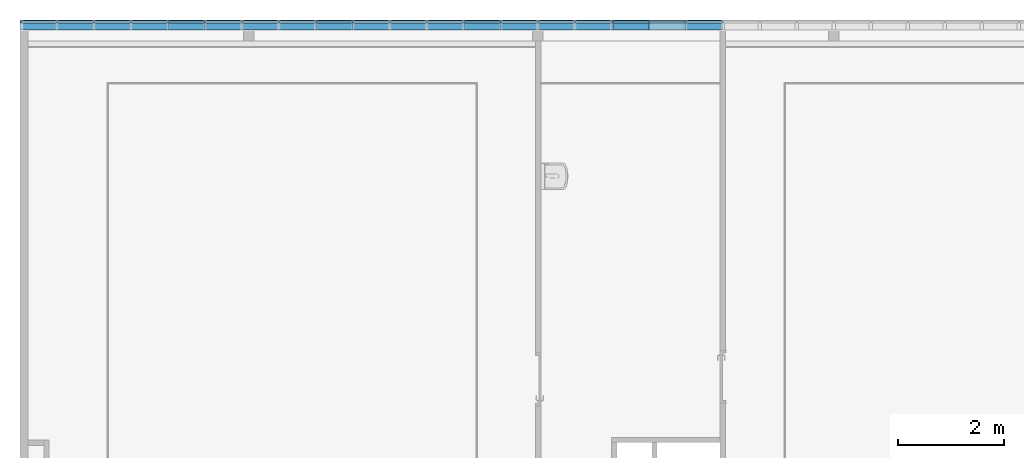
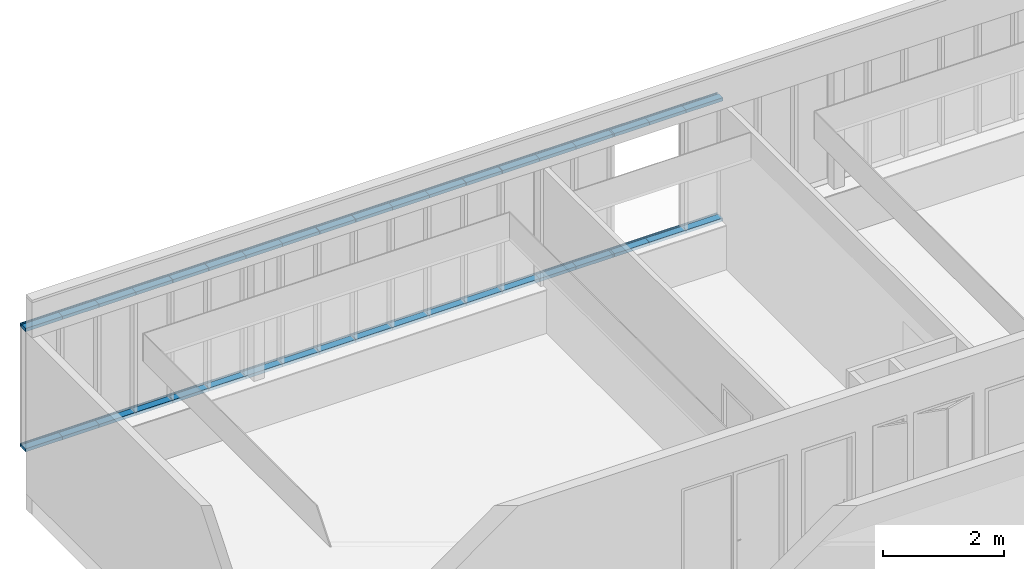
# One storey, part 10 of 87: 46 members, 1 element without a shape of its own.
"""IFC2X3 building model written with IfcOpenShell, lengths in centimetres."""

from ifc_helpers import new_model, entity, si_unit, converted_unit, derived_unit, direction, frame, origin, place, context, subcontext, project, spatial, polyline, outline, extrude, source, transform, mapped, material, type_object, type_shapes, element, aggregate, save


model = new_model("IFC2X3")

# Units and contexts
model_context = context("Model", 3, precision=0.001, world=origin(), true_north=direction((6.12303176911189e-17, 1.0)))
body_context = subcontext(model_context, "Body", "Model", "MODEL_VIEW")
ifc_project = project(units=[si_unit("LENGTHUNIT", "METRE", prefix="CENTI"), si_unit("AREAUNIT", "SQUARE_METRE"), si_unit("VOLUMEUNIT", "CUBIC_METRE"), converted_unit("PLANEANGLEUNIT", "DEGREE", entity("IfcRatioMeasure", 0.0174532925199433), si_unit("PLANEANGLEUNIT", "RADIAN"), dimensions=[0, 0, 0, 0, 0, 0, 0]), si_unit("MASSUNIT", "GRAM", prefix="KILO"), derived_unit("MASSDENSITYUNIT", [(si_unit("MASSUNIT", "GRAM", prefix="KILO"), 1), (si_unit("LENGTHUNIT", "METRE"), -3)]), si_unit("TIMEUNIT", "SECOND"), si_unit("FREQUENCYUNIT", "HERTZ"), si_unit("THERMODYNAMICTEMPERATUREUNIT", "DEGREE_CELSIUS"), derived_unit("THERMALTRANSMITTANCEUNIT", [(si_unit("MASSUNIT", "GRAM", prefix="KILO"), 1), (si_unit("THERMODYNAMICTEMPERATUREUNIT", "KELVIN"), -1), (si_unit("TIMEUNIT", "SECOND"), -3)]), derived_unit("VOLUMETRICFLOWRATEUNIT", [(si_unit("LENGTHUNIT", "METRE"), 3), (si_unit("TIMEUNIT", "SECOND"), -1)]), si_unit("ELECTRICCURRENTUNIT", "AMPERE"), si_unit("ELECTRICVOLTAGEUNIT", "VOLT"), si_unit("POWERUNIT", "WATT"), si_unit("FORCEUNIT", "NEWTON", prefix="KILO"), si_unit("ILLUMINANCEUNIT", "LUX"), si_unit("LUMINOUSFLUXUNIT", "LUMEN"), si_unit("LUMINOUSINTENSITYUNIT", "CANDELA"), derived_unit("USERDEFINED", [(si_unit("MASSUNIT", "GRAM", prefix="KILO"), -1), (si_unit("LENGTHUNIT", "METRE"), -2), (si_unit("TIMEUNIT", "SECOND"), 3), (si_unit("LUMINOUSFLUXUNIT", "LUMEN"), 1)]), derived_unit("LINEARVELOCITYUNIT", [(si_unit("LENGTHUNIT", "METRE"), 1), (si_unit("TIMEUNIT", "SECOND"), -1)]), si_unit("PRESSUREUNIT", "PASCAL"), derived_unit("USERDEFINED", [(si_unit("LENGTHUNIT", "METRE"), -2), (si_unit("MASSUNIT", "GRAM", prefix="KILO"), 1), (si_unit("TIMEUNIT", "SECOND"), -2)])], contexts=[model_context])

# Site, building, storey
site_placement = place(None, frame((-2781.94577612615, 7442.24238424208, 0.0)))
site = spatial("IfcSite", under=ifc_project, at=site_placement, Name="Default", CompositionType="ELEMENT")
building_placement = place(site_placement, origin())
building = spatial("IfcBuilding", under=site, at=building_placement, CompositionType="ELEMENT")
storey_placement = place(building_placement, frame((0.0, 0.0, 774.0)))
storey = spatial("IfcBuildingStorey", under=building, at=storey_placement, Name="TR - N02 - ARCH", CompositionType="ELEMENT", Elevation=774.0)

# Curtain wall, members
curtain_wall_type = type_object("IfcCurtainWallType", Name="Mur-rideau:07 - mur rideau trame 70cm", PredefinedType="NOTDEFINED")
curtain_wall_placement = place(storey_placement, frame((0.0, 0.0, -774.0)))
curtain_wall = element("IfcCurtainWall", 1, at=curtain_wall_placement, inside=storey, type_object=curtain_wall_type, Name="Mur-rideau:07 - mur rideau trame 70cm", ObjectType="Mur-rideau:07 - mur rideau trame 70cm")
ifc_material = material(Name="Aluminium")
member_type_1 = type_object("IfcMemberType", Name="150 x 25mm Détails", PredefinedType="MEMBER")
shared_shape_1 = source(origin(), body_context, "Body", "SweptSolid", [
    extrude(outline(polyline([(-5.6666666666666, -3.24999999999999), (-3.66666666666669, -3.24999999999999), (-3.66666666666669, -0.868749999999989), (-0.166666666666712, -0.868749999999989), (-0.166666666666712, -3.25000000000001), (13.3333333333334, -3.25000000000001), (13.3333333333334, 3.24999999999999), (-0.16666666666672, 3.24999999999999), (-0.16666666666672, 0.868749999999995), (-3.66666666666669, 0.868749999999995), (-3.66666666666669, 3.25), (-5.6666666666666, 3.25), (-5.6666666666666, -3.24999999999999)])), frame((-3.24999999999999, -1.96666666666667, -70.0), z_axis=(0.0, 0.0, 1.0), x_axis=(0.0, -1.0, 0.0)), (0.0, 0.0, 1.0), 70.0000000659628),
])
type_shapes(member_type_1, [shared_shape_1])
member_1_placement = place(storey_placement, frame((-8409.49987766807, 26.200000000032, 332.5), z_axis=(-1.0, 0.0, 0.0), x_axis=(0.0, 0.0, 1.0)))
member_1 = element("IfcMember", 2, at=member_1_placement, type_object=member_type_1, material=ifc_material, Name="Meneau rectangulaire:150 x 25mm Détails", ObjectType="Meneau rectangulaire:150 x 25mm Détails", context=body_context, shape_type="MappedRepresentation", body=[
    mapped(shared_shape_1, transform((0.0, 0.0, 0.0), scale=1.0)),
])
member_type_2 = type_object("IfcMemberType", Name="150 x 25mm Détails", PredefinedType="MEMBER")
shared_shape_2 = source(origin(), body_context, "Body", "SweptSolid", [
    extrude(outline(polyline([(-5.6666666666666, -3.24999999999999), (-3.66666666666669, -3.24999999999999), (-3.66666666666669, -0.868749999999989), (-0.166666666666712, -0.868749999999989), (-0.166666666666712, -3.25000000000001), (13.3333333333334, -3.25000000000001), (13.3333333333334, 3.24999999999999), (-0.16666666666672, 3.24999999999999), (-0.16666666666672, 0.868749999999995), (-3.66666666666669, 0.868749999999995), (-3.66666666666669, 3.25), (-5.6666666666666, 3.25), (-5.6666666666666, -3.24999999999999)])), frame((-3.24999999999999, -1.96666666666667, -70.0), z_axis=(0.0, 0.0, 1.0), x_axis=(0.0, -1.0, 0.0)), (0.0, 0.0, 1.0), 69.9999999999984),
])
type_shapes(member_type_2, [shared_shape_2])
member_2_placement = place(storey_placement, frame((-7149.49987760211, 26.2000000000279, 332.5), z_axis=(-1.0, 0.0, 0.0), x_axis=(0.0, 0.0, 1.0)))
member_2 = element("IfcMember", 3, at=member_2_placement, type_object=member_type_2, material=ifc_material, Name="Meneau rectangulaire:150 x 25mm Détails", ObjectType="Meneau rectangulaire:150 x 25mm Détails", context=body_context, shape_type="MappedRepresentation", body=[
    mapped(shared_shape_2, transform((0.0, 0.0, 0.0), scale=1.0)),
])
member_3_placement = place(storey_placement, frame((-7219.49987760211, 26.2000000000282, 332.5), z_axis=(-1.0, 0.0, 0.0), x_axis=(0.0, 0.0, 1.0)))
member_3 = element("IfcMember", 4, at=member_3_placement, type_object=member_type_2, material=ifc_material, Name="Meneau rectangulaire:150 x 25mm Détails", ObjectType="Meneau rectangulaire:150 x 25mm Détails", context=body_context, shape_type="MappedRepresentation", body=[
    mapped(shared_shape_2, transform((0.0, 0.0, 0.0), scale=1.0)),
])
member_4_placement = place(storey_placement, frame((-7289.49987760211, 26.2000000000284, 332.5), z_axis=(-1.0, 0.0, 0.0), x_axis=(0.0, 0.0, 1.0)))
member_4 = element("IfcMember", 5, at=member_4_placement, type_object=member_type_2, material=ifc_material, Name="Meneau rectangulaire:150 x 25mm Détails", ObjectType="Meneau rectangulaire:150 x 25mm Détails", context=body_context, shape_type="MappedRepresentation", body=[
    mapped(shared_shape_2, transform((0.0, 0.0, 0.0), scale=1.0)),
])
member_5_placement = place(storey_placement, frame((-7359.49987760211, 26.2000000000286, 332.5), z_axis=(-1.0, 0.0, 0.0), x_axis=(0.0, 0.0, 1.0)))
member_5 = element("IfcMember", 6, at=member_5_placement, type_object=member_type_2, material=ifc_material, Name="Meneau rectangulaire:150 x 25mm Détails", ObjectType="Meneau rectangulaire:150 x 25mm Détails", context=body_context, shape_type="MappedRepresentation", body=[
    mapped(shared_shape_2, transform((0.0, 0.0, 0.0), scale=1.0)),
])
member_6_placement = place(storey_placement, frame((-7429.49987760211, 26.2000000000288, 332.5), z_axis=(-1.0, 0.0, 0.0), x_axis=(0.0, 0.0, 1.0)))
member_6 = element("IfcMember", 7, at=member_6_placement, type_object=member_type_2, material=ifc_material, Name="Meneau rectangulaire:150 x 25mm Détails", ObjectType="Meneau rectangulaire:150 x 25mm Détails", context=body_context, shape_type="MappedRepresentation", body=[
    mapped(shared_shape_2, transform((0.0, 0.0, 0.0), scale=1.0)),
])
member_7_placement = place(storey_placement, frame((-7499.49987760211, 26.2000000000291, 332.5), z_axis=(-1.0, 0.0, 0.0), x_axis=(0.0, 0.0, 1.0)))
member_7 = element("IfcMember", 8, at=member_7_placement, type_object=member_type_2, material=ifc_material, Name="Meneau rectangulaire:150 x 25mm Détails", ObjectType="Meneau rectangulaire:150 x 25mm Détails", context=body_context, shape_type="MappedRepresentation", body=[
    mapped(shared_shape_2, transform((0.0, 0.0, 0.0), scale=1.0)),
])
member_8_placement = place(storey_placement, frame((-7569.49987760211, 26.2000000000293, 332.5), z_axis=(-1.0, 0.0, 0.0), x_axis=(0.0, 0.0, 1.0)))
member_8 = element("IfcMember", 9, at=member_8_placement, type_object=member_type_2, material=ifc_material, Name="Meneau rectangulaire:150 x 25mm Détails", ObjectType="Meneau rectangulaire:150 x 25mm Détails", context=body_context, shape_type="MappedRepresentation", body=[
    mapped(shared_shape_2, transform((0.0, 0.0, 0.0), scale=1.0)),
])
member_9_placement = place(storey_placement, frame((-7639.49987760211, 26.2000000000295, 332.5), z_axis=(-1.0, 0.0, 0.0), x_axis=(0.0, 0.0, 1.0)))
member_9 = element("IfcMember", 10, at=member_9_placement, type_object=member_type_2, material=ifc_material, Name="Meneau rectangulaire:150 x 25mm Détails", ObjectType="Meneau rectangulaire:150 x 25mm Détails", context=body_context, shape_type="MappedRepresentation", body=[
    mapped(shared_shape_2, transform((0.0, 0.0, 0.0), scale=1.0)),
])
member_10_placement = place(storey_placement, frame((-7709.49987760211, 26.2000000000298, 332.5), z_axis=(-1.0, 0.0, 0.0), x_axis=(0.0, 0.0, 1.0)))
member_10 = element("IfcMember", 11, at=member_10_placement, type_object=member_type_2, material=ifc_material, Name="Meneau rectangulaire:150 x 25mm Détails", ObjectType="Meneau rectangulaire:150 x 25mm Détails", context=body_context, shape_type="MappedRepresentation", body=[
    mapped(shared_shape_2, transform((0.0, 0.0, 0.0), scale=1.0)),
])
member_11_placement = place(storey_placement, frame((-7779.49987760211, 26.20000000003, 332.5), z_axis=(-1.0, 0.0, 0.0), x_axis=(0.0, 0.0, 1.0)))
member_11 = element("IfcMember", 12, at=member_11_placement, type_object=member_type_2, material=ifc_material, Name="Meneau rectangulaire:150 x 25mm Détails", ObjectType="Meneau rectangulaire:150 x 25mm Détails", context=body_context, shape_type="MappedRepresentation", body=[
    mapped(shared_shape_2, transform((0.0, 0.0, 0.0), scale=1.0)),
])
member_12_placement = place(storey_placement, frame((-7849.49987760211, 26.2000000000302, 332.5), z_axis=(-1.0, 0.0, 0.0), x_axis=(0.0, 0.0, 1.0)))
member_12 = element("IfcMember", 13, at=member_12_placement, type_object=member_type_2, material=ifc_material, Name="Meneau rectangulaire:150 x 25mm Détails", ObjectType="Meneau rectangulaire:150 x 25mm Détails", context=body_context, shape_type="MappedRepresentation", body=[
    mapped(shared_shape_2, transform((0.0, 0.0, 0.0), scale=1.0)),
])
member_13_placement = place(storey_placement, frame((-7919.49987760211, 26.2000000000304, 332.5), z_axis=(-1.0, 0.0, 0.0), x_axis=(0.0, 0.0, 1.0)))
member_13 = element("IfcMember", 14, at=member_13_placement, type_object=member_type_2, material=ifc_material, Name="Meneau rectangulaire:150 x 25mm Détails", ObjectType="Meneau rectangulaire:150 x 25mm Détails", context=body_context, shape_type="MappedRepresentation", body=[
    mapped(shared_shape_2, transform((0.0, 0.0, 0.0), scale=1.0)),
])
member_14_placement = place(storey_placement, frame((-7989.4998776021, 26.2000000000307, 332.5), z_axis=(-1.0, 0.0, 0.0), x_axis=(0.0, 0.0, 1.0)))
member_14 = element("IfcMember", 15, at=member_14_placement, type_object=member_type_2, material=ifc_material, Name="Meneau rectangulaire:150 x 25mm Détails", ObjectType="Meneau rectangulaire:150 x 25mm Détails", context=body_context, shape_type="MappedRepresentation", body=[
    mapped(shared_shape_2, transform((0.0, 0.0, 0.0), scale=1.0)),
])
member_15_placement = place(storey_placement, frame((-8059.4998776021, 26.2000000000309, 332.5), z_axis=(-1.0, 0.0, 0.0), x_axis=(0.0, 0.0, 1.0)))
member_15 = element("IfcMember", 16, at=member_15_placement, type_object=member_type_2, material=ifc_material, Name="Meneau rectangulaire:150 x 25mm Détails", ObjectType="Meneau rectangulaire:150 x 25mm Détails", context=body_context, shape_type="MappedRepresentation", body=[
    mapped(shared_shape_2, transform((0.0, 0.0, 0.0), scale=1.0)),
])
member_16_placement = place(storey_placement, frame((-8129.4998776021, 26.2000000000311, 332.5), z_axis=(-1.0, 0.0, 0.0), x_axis=(0.0, 0.0, 1.0)))
member_16 = element("IfcMember", 17, at=member_16_placement, type_object=member_type_2, material=ifc_material, Name="Meneau rectangulaire:150 x 25mm Détails", ObjectType="Meneau rectangulaire:150 x 25mm Détails", context=body_context, shape_type="MappedRepresentation", body=[
    mapped(shared_shape_2, transform((0.0, 0.0, 0.0), scale=1.0)),
])
member_17_placement = place(storey_placement, frame((-8199.4998776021, 26.2000000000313, 332.5), z_axis=(-1.0, 0.0, 0.0), x_axis=(0.0, 0.0, 1.0)))
member_17 = element("IfcMember", 18, at=member_17_placement, type_object=member_type_2, material=ifc_material, Name="Meneau rectangulaire:150 x 25mm Détails", ObjectType="Meneau rectangulaire:150 x 25mm Détails", context=body_context, shape_type="MappedRepresentation", body=[
    mapped(shared_shape_2, transform((0.0, 0.0, 0.0), scale=1.0)),
])
member_18_placement = place(storey_placement, frame((-8269.4998776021, 26.2000000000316, 332.5), z_axis=(-1.0, 0.0, 0.0), x_axis=(0.0, 0.0, 1.0)))
member_18 = element("IfcMember", 19, at=member_18_placement, type_object=member_type_2, material=ifc_material, Name="Meneau rectangulaire:150 x 25mm Détails", ObjectType="Meneau rectangulaire:150 x 25mm Détails", context=body_context, shape_type="MappedRepresentation", body=[
    mapped(shared_shape_2, transform((0.0, 0.0, 0.0), scale=1.0)),
])
member_19_placement = place(storey_placement, frame((-8339.4998776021, 26.2000000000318, 332.5), z_axis=(-1.0, 0.0, 0.0), x_axis=(0.0, 0.0, 1.0)))
member_19 = element("IfcMember", 20, at=member_19_placement, type_object=member_type_2, material=ifc_material, Name="Meneau rectangulaire:150 x 25mm Détails", ObjectType="Meneau rectangulaire:150 x 25mm Détails", context=body_context, shape_type="MappedRepresentation", body=[
    mapped(shared_shape_2, transform((0.0, 0.0, 0.0), scale=1.0)),
])
member_type_3 = type_object("IfcMemberType", Name="150 x 25mm Détails", PredefinedType="MEMBER")
shared_shape_3 = source(origin(), body_context, "Body", "SweptSolid", [
    extrude(outline(polyline([(-5.66666666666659, -3.25), (-3.66666666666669, -3.25), (-3.66666666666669, -0.868749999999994), (-0.166666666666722, -0.868749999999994), (-0.166666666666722, -3.25000000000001), (13.3333333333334, -3.24999999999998), (13.3333333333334, 3.25000000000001), (-0.166666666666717, 3.25000000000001), (-0.166666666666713, 0.868749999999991), (-3.66666666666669, 0.868749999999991), (-3.66666666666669, 3.24999999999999), (-5.66666666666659, 3.24999999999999), (-5.66666666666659, -3.25)])), frame((-3.24999999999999, -1.96666666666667, -70.0), z_axis=(0.0, 0.0, 1.0), x_axis=(0.0, -1.0, 0.0)), (0.0, 0.0, 1.0), 69.9999999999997),
])
type_shapes(member_type_3, [shared_shape_3])
member_20_placement = place(storey_placement, frame((-7079.49987760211, 26.2000000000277, 83.5), z_axis=(1.0, 0.0, 0.0), x_axis=(0.0, 0.0, -1.0)))
member_20 = element("IfcMember", 21, at=member_20_placement, type_object=member_type_3, material=ifc_material, Name="Meneau rectangulaire:150 x 25mm Détails", ObjectType="Meneau rectangulaire:150 x 25mm Détails", context=body_context, shape_type="MappedRepresentation", body=[
    mapped(shared_shape_3, transform((0.0, 0.0, 0.0), scale=1.0)),
])
member_21_placement = place(storey_placement, frame((-7289.49987760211, 26.2000000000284, 83.5), z_axis=(1.0, 0.0, 0.0), x_axis=(0.0, 0.0, -1.0)))
member_21 = element("IfcMember", 22, at=member_21_placement, type_object=member_type_3, material=ifc_material, Name="Meneau rectangulaire:150 x 25mm Détails", ObjectType="Meneau rectangulaire:150 x 25mm Détails", context=body_context, shape_type="MappedRepresentation", body=[
    mapped(shared_shape_3, transform((0.0, 0.0, 0.0), scale=1.0)),
])
member_22_placement = place(storey_placement, frame((-7359.49987760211, 26.2000000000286, 83.5), z_axis=(1.0, 0.0, 0.0), x_axis=(0.0, 0.0, -1.0)))
member_22 = element("IfcMember", 23, at=member_22_placement, type_object=member_type_3, material=ifc_material, Name="Meneau rectangulaire:150 x 25mm Détails", ObjectType="Meneau rectangulaire:150 x 25mm Détails", context=body_context, shape_type="MappedRepresentation", body=[
    mapped(shared_shape_3, transform((0.0, 0.0, 0.0), scale=1.0)),
])
member_23_placement = place(storey_placement, frame((-7429.49987760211, 26.2000000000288, 83.5), z_axis=(1.0, 0.0, 0.0), x_axis=(0.0, 0.0, -1.0)))
member_23 = element("IfcMember", 24, at=member_23_placement, type_object=member_type_3, material=ifc_material, Name="Meneau rectangulaire:150 x 25mm Détails", ObjectType="Meneau rectangulaire:150 x 25mm Détails", context=body_context, shape_type="MappedRepresentation", body=[
    mapped(shared_shape_3, transform((0.0, 0.0, 0.0), scale=1.0)),
])
member_24_placement = place(storey_placement, frame((-7499.49987760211, 26.2000000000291, 83.5), z_axis=(1.0, 0.0, 0.0), x_axis=(0.0, 0.0, -1.0)))
member_24 = element("IfcMember", 25, at=member_24_placement, type_object=member_type_3, material=ifc_material, Name="Meneau rectangulaire:150 x 25mm Détails", ObjectType="Meneau rectangulaire:150 x 25mm Détails", context=body_context, shape_type="MappedRepresentation", body=[
    mapped(shared_shape_3, transform((0.0, 0.0, 0.0), scale=1.0)),
])
member_25_placement = place(storey_placement, frame((-7569.49987760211, 26.2000000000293, 83.5), z_axis=(1.0, 0.0, 0.0), x_axis=(0.0, 0.0, -1.0)))
member_25 = element("IfcMember", 26, at=member_25_placement, type_object=member_type_3, material=ifc_material, Name="Meneau rectangulaire:150 x 25mm Détails", ObjectType="Meneau rectangulaire:150 x 25mm Détails", context=body_context, shape_type="MappedRepresentation", body=[
    mapped(shared_shape_3, transform((0.0, 0.0, 0.0), scale=1.0)),
])
member_26_placement = place(storey_placement, frame((-7639.49987760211, 26.2000000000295, 83.5), z_axis=(1.0, 0.0, 0.0), x_axis=(0.0, 0.0, -1.0)))
member_26 = element("IfcMember", 27, at=member_26_placement, type_object=member_type_3, material=ifc_material, Name="Meneau rectangulaire:150 x 25mm Détails", ObjectType="Meneau rectangulaire:150 x 25mm Détails", context=body_context, shape_type="MappedRepresentation", body=[
    mapped(shared_shape_3, transform((0.0, 0.0, 0.0), scale=1.0)),
])
member_27_placement = place(storey_placement, frame((-7709.49987760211, 26.2000000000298, 83.5), z_axis=(1.0, 0.0, 0.0), x_axis=(0.0, 0.0, -1.0)))
member_27 = element("IfcMember", 28, at=member_27_placement, type_object=member_type_3, material=ifc_material, Name="Meneau rectangulaire:150 x 25mm Détails", ObjectType="Meneau rectangulaire:150 x 25mm Détails", context=body_context, shape_type="MappedRepresentation", body=[
    mapped(shared_shape_3, transform((0.0, 0.0, 0.0), scale=1.0)),
])
member_28_placement = place(storey_placement, frame((-7779.49987760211, 26.20000000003, 83.5), z_axis=(1.0, 0.0, 0.0), x_axis=(0.0, 0.0, -1.0)))
member_28 = element("IfcMember", 29, at=member_28_placement, type_object=member_type_3, material=ifc_material, Name="Meneau rectangulaire:150 x 25mm Détails", ObjectType="Meneau rectangulaire:150 x 25mm Détails", context=body_context, shape_type="MappedRepresentation", body=[
    mapped(shared_shape_3, transform((0.0, 0.0, 0.0), scale=1.0)),
])
member_29_placement = place(storey_placement, frame((-7849.49987760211, 26.2000000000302, 83.5), z_axis=(1.0, 0.0, 0.0), x_axis=(0.0, 0.0, -1.0)))
member_29 = element("IfcMember", 30, at=member_29_placement, type_object=member_type_3, material=ifc_material, Name="Meneau rectangulaire:150 x 25mm Détails", ObjectType="Meneau rectangulaire:150 x 25mm Détails", context=body_context, shape_type="MappedRepresentation", body=[
    mapped(shared_shape_3, transform((0.0, 0.0, 0.0), scale=1.0)),
])
member_30_placement = place(storey_placement, frame((-7919.49987760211, 26.2000000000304, 83.5), z_axis=(1.0, 0.0, 0.0), x_axis=(0.0, 0.0, -1.0)))
member_30 = element("IfcMember", 31, at=member_30_placement, type_object=member_type_3, material=ifc_material, Name="Meneau rectangulaire:150 x 25mm Détails", ObjectType="Meneau rectangulaire:150 x 25mm Détails", context=body_context, shape_type="MappedRepresentation", body=[
    mapped(shared_shape_3, transform((0.0, 0.0, 0.0), scale=1.0)),
])
member_31_placement = place(storey_placement, frame((-7989.4998776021, 26.2000000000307, 83.5), z_axis=(1.0, 0.0, 0.0), x_axis=(0.0, 0.0, -1.0)))
member_31 = element("IfcMember", 32, at=member_31_placement, type_object=member_type_3, material=ifc_material, Name="Meneau rectangulaire:150 x 25mm Détails", ObjectType="Meneau rectangulaire:150 x 25mm Détails", context=body_context, shape_type="MappedRepresentation", body=[
    mapped(shared_shape_3, transform((0.0, 0.0, 0.0), scale=1.0)),
])
member_32_placement = place(storey_placement, frame((-8059.4998776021, 26.2000000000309, 83.5), z_axis=(1.0, 0.0, 0.0), x_axis=(0.0, 0.0, -1.0)))
member_32 = element("IfcMember", 33, at=member_32_placement, type_object=member_type_3, material=ifc_material, Name="Meneau rectangulaire:150 x 25mm Détails", ObjectType="Meneau rectangulaire:150 x 25mm Détails", context=body_context, shape_type="MappedRepresentation", body=[
    mapped(shared_shape_3, transform((0.0, 0.0, 0.0), scale=1.0)),
])
member_33_placement = place(storey_placement, frame((-8129.4998776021, 26.2000000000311, 83.5), z_axis=(1.0, 0.0, 0.0), x_axis=(0.0, 0.0, -1.0)))
member_33 = element("IfcMember", 34, at=member_33_placement, type_object=member_type_3, material=ifc_material, Name="Meneau rectangulaire:150 x 25mm Détails", ObjectType="Meneau rectangulaire:150 x 25mm Détails", context=body_context, shape_type="MappedRepresentation", body=[
    mapped(shared_shape_3, transform((0.0, 0.0, 0.0), scale=1.0)),
])
member_34_placement = place(storey_placement, frame((-8199.4998776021, 26.2000000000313, 83.5), z_axis=(1.0, 0.0, 0.0), x_axis=(0.0, 0.0, -1.0)))
member_34 = element("IfcMember", 35, at=member_34_placement, type_object=member_type_3, material=ifc_material, Name="Meneau rectangulaire:150 x 25mm Détails", ObjectType="Meneau rectangulaire:150 x 25mm Détails", context=body_context, shape_type="MappedRepresentation", body=[
    mapped(shared_shape_3, transform((0.0, 0.0, 0.0), scale=1.0)),
])
member_35_placement = place(storey_placement, frame((-8269.4998776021, 26.2000000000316, 83.5), z_axis=(1.0, 0.0, 0.0), x_axis=(0.0, 0.0, -1.0)))
member_35 = element("IfcMember", 36, at=member_35_placement, type_object=member_type_3, material=ifc_material, Name="Meneau rectangulaire:150 x 25mm Détails", ObjectType="Meneau rectangulaire:150 x 25mm Détails", context=body_context, shape_type="MappedRepresentation", body=[
    mapped(shared_shape_3, transform((0.0, 0.0, 0.0), scale=1.0)),
])
member_type_4 = type_object("IfcMemberType", Name="150 x 25mm Détails", PredefinedType="MEMBER")
shared_shape_4 = source(origin(), body_context, "Body", "SweptSolid", [
    extrude(outline(polyline([(-5.66666666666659, -3.25), (-3.66666666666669, -3.25), (-3.66666666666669, -0.868749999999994), (-0.166666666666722, -0.868749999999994), (-0.166666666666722, -3.25000000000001), (13.3333333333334, -3.24999999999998), (13.3333333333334, 3.25000000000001), (-0.166666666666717, 3.25000000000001), (-0.166666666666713, 0.868749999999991), (-3.66666666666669, 0.868749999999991), (-3.66666666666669, 3.24999999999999), (-5.66666666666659, 3.24999999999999), (-5.66666666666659, -3.25)])), frame((-3.24999999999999, -1.96666666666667, -70.0), z_axis=(0.0, 0.0, 1.0), x_axis=(0.0, -1.0, 0.0)), (0.0, 0.0, 1.0), 69.9999999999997),
])
type_shapes(member_type_4, [shared_shape_4])
member_36_placement = place(storey_placement, frame((-7149.49987760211, 26.2000000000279, 83.5), z_axis=(1.0, 0.0, 0.0), x_axis=(0.0, 0.0, -1.0)))
member_36 = element("IfcMember", 37, at=member_36_placement, type_object=member_type_4, material=ifc_material, Name="Meneau rectangulaire:150 x 25mm Détails", ObjectType="Meneau rectangulaire:150 x 25mm Détails", context=body_context, shape_type="MappedRepresentation", body=[
    mapped(shared_shape_4, transform((0.0, 0.0, 0.0), scale=1.0)),
])
member_type_5 = type_object("IfcMemberType", Name="150 x 25mm Détails", PredefinedType="MEMBER")
shared_shape_5 = source(origin(), body_context, "Body", "SweptSolid", [
    extrude(outline(polyline([(-5.66666666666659, -3.25), (-3.66666666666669, -3.25), (-3.66666666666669, -0.868749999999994), (-0.166666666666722, -0.868749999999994), (-0.166666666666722, -3.25000000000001), (13.3333333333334, -3.24999999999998), (13.3333333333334, 3.25000000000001), (-0.166666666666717, 3.25000000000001), (-0.166666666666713, 0.868749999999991), (-3.66666666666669, 0.868749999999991), (-3.66666666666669, 3.24999999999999), (-5.66666666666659, 3.24999999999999), (-5.66666666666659, -3.25)])), frame((-3.24999999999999, -1.96666666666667, -70.0), z_axis=(0.0, 0.0, 1.0), x_axis=(0.0, -1.0, 0.0)), (0.0, 0.0, 1.0), 69.9999999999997),
])
type_shapes(member_type_5, [shared_shape_5])
member_37_placement = place(storey_placement, frame((-7219.49987760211, 26.2000000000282, 83.5), z_axis=(1.0, 0.0, 0.0), x_axis=(0.0, 0.0, -1.0)))
member_37 = element("IfcMember", 38, at=member_37_placement, type_object=member_type_5, material=ifc_material, Name="Meneau rectangulaire:150 x 25mm Détails", ObjectType="Meneau rectangulaire:150 x 25mm Détails", context=body_context, shape_type="MappedRepresentation", body=[
    mapped(shared_shape_5, transform((0.0, 0.0, 0.0), scale=1.0)),
])
member_type_6 = type_object("IfcMemberType", Name="150 x 25mm Détails", PredefinedType="MEMBER")
shared_shape_6 = source(origin(), body_context, "Body", "SweptSolid", [
    extrude(outline(polyline([(-5.66666666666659, -3.25), (-3.66666666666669, -3.25), (-3.66666666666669, -0.868749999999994), (-0.166666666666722, -0.868749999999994), (-0.166666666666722, -3.25000000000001), (13.3333333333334, -3.24999999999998), (13.3333333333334, 3.25000000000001), (-0.166666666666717, 3.25000000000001), (-0.166666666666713, 0.868749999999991), (-3.66666666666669, 0.868749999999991), (-3.66666666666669, 3.24999999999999), (-5.66666666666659, 3.24999999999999), (-5.66666666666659, -3.25)])), frame((-3.24999999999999, -1.96666666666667, -70.0), z_axis=(0.0, 0.0, 1.0), x_axis=(0.0, -1.0, 0.0)), (0.0, 0.0, 1.0), 70.0000000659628),
])
type_shapes(member_type_6, [shared_shape_6])
member_38_placement = place(storey_placement, frame((-8339.4998776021, 26.2000000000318, 83.5), z_axis=(1.0, 0.0, 0.0), x_axis=(0.0, 0.0, -1.0)))
member_38 = element("IfcMember", 39, at=member_38_placement, type_object=member_type_6, material=ifc_material, Name="Meneau rectangulaire:150 x 25mm Détails", ObjectType="Meneau rectangulaire:150 x 25mm Détails", context=body_context, shape_type="MappedRepresentation", body=[
    mapped(shared_shape_6, transform((0.0, 0.0, 0.0), scale=1.0)),
])
member_type_7 = type_object("IfcMemberType", Name="150 x 25mm Détails", PredefinedType="MEMBER")
shared_shape_7 = source(origin(), body_context, "Body", "SweptSolid", [
    extrude(outline(polyline([(-5.66666666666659, -3.25), (-3.66666666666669, -3.25), (-3.66666666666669, -0.868749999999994), (-0.166666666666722, -0.868749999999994), (-0.166666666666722, -3.25000000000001), (13.3333333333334, -3.24999999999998), (13.3333333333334, 3.25000000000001), (-0.166666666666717, 3.25000000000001), (-0.166666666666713, 0.868749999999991), (-3.66666666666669, 0.868749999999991), (-3.66666666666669, 3.24999999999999), (-5.66666666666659, 3.24999999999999), (-5.66666666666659, -3.25)])), frame((-3.24999999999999, -1.96666666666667, -68.0), z_axis=(0.0, 0.0, 1.0), x_axis=(0.0, -1.0, 0.0)), (0.0, 0.0, 1.0), 68.0000000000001),
])
type_shapes(member_type_7, [shared_shape_7])
member_39_placement = place(storey_placement, frame((-7500.46862760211, 26.2000000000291, 326.0), z_axis=(1.0, 0.0, 0.0), x_axis=(0.0, 0.0, -1.0)))
member_39 = element("IfcMember", 40, at=member_39_placement, type_object=member_type_7, material=ifc_material, Name="Meneau rectangulaire:150 x 25mm Détails", ObjectType="Meneau rectangulaire:150 x 25mm Détails", context=body_context, shape_type="MappedRepresentation", body=[
    mapped(shared_shape_7, transform((0.0, 0.0, 0.0), scale=1.0)),
])
member_40_placement = place(storey_placement, frame((-7780.4686276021, 26.20000000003, 326.0), z_axis=(1.0, 0.0, 0.0), x_axis=(0.0, 0.0, -1.0)))
member_40 = element("IfcMember", 41, at=member_40_placement, type_object=member_type_7, material=ifc_material, Name="Meneau rectangulaire:150 x 25mm Détails", ObjectType="Meneau rectangulaire:150 x 25mm Détails", context=body_context, shape_type="MappedRepresentation", body=[
    mapped(shared_shape_7, transform((0.0, 0.0, 0.0), scale=1.0)),
])
member_41_placement = place(storey_placement, frame((-8060.4686276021, 26.2000000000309, 326.0), z_axis=(1.0, 0.0, 0.0), x_axis=(0.0, 0.0, -1.0)))
member_41 = element("IfcMember", 42, at=member_41_placement, type_object=member_type_7, material=ifc_material, Name="Meneau rectangulaire:150 x 25mm Détails", ObjectType="Meneau rectangulaire:150 x 25mm Détails", context=body_context, shape_type="MappedRepresentation", body=[
    mapped(shared_shape_7, transform((0.0, 0.0, 0.0), scale=1.0)),
])
member_type_8 = type_object("IfcMemberType", Name="150 x 25mm Détails", PredefinedType="MEMBER")
shared_shape_8 = source(origin(), body_context, "Body", "SweptSolid", [
    extrude(outline(polyline([(-5.6666666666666, -3.24999999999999), (-3.66666666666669, -3.24999999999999), (-3.66666666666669, -0.868749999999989), (-0.166666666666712, -0.868749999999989), (-0.166666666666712, -3.25000000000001), (13.3333333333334, -3.25000000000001), (13.3333333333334, 3.24999999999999), (-0.16666666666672, 3.24999999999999), (-0.16666666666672, 0.868749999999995), (-3.66666666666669, 0.868749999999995), (-3.66666666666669, 3.25), (-5.6666666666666, 3.25), (-5.6666666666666, -3.24999999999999)])), frame((-3.24999999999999, -1.96666666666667, -68.0), z_axis=(0.0, 0.0, 1.0), x_axis=(0.0, -1.0, 0.0)), (0.0, 0.0, 1.0), 68.0000000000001),
])
type_shapes(member_type_8, [shared_shape_8])
member_42_placement = place(storey_placement, frame((-7568.46862760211, 26.2000000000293, 90.0), z_axis=(-1.0, 0.0, 0.0), x_axis=(0.0, 0.0, 1.0)))
member_42 = element("IfcMember", 43, at=member_42_placement, type_object=member_type_8, material=ifc_material, Name="Meneau rectangulaire:150 x 25mm Détails", ObjectType="Meneau rectangulaire:150 x 25mm Détails", context=body_context, shape_type="MappedRepresentation", body=[
    mapped(shared_shape_8, transform((0.0, 0.0, 0.0), scale=1.0)),
])
member_43_placement = place(storey_placement, frame((-7848.4686276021, 26.2000000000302, 90.0), z_axis=(-1.0, 0.0, 0.0), x_axis=(0.0, 0.0, 1.0)))
member_43 = element("IfcMember", 44, at=member_43_placement, type_object=member_type_8, material=ifc_material, Name="Meneau rectangulaire:150 x 25mm Détails", ObjectType="Meneau rectangulaire:150 x 25mm Détails", context=body_context, shape_type="MappedRepresentation", body=[
    mapped(shared_shape_8, transform((0.0, 0.0, 0.0), scale=1.0)),
])
member_44_placement = place(storey_placement, frame((-8128.4686276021, 26.2000000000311, 90.0), z_axis=(-1.0, 0.0, 0.0), x_axis=(0.0, 0.0, 1.0)))
member_44 = element("IfcMember", 45, at=member_44_placement, type_object=member_type_8, material=ifc_material, Name="Meneau rectangulaire:150 x 25mm Détails", ObjectType="Meneau rectangulaire:150 x 25mm Détails", context=body_context, shape_type="MappedRepresentation", body=[
    mapped(shared_shape_8, transform((0.0, 0.0, 0.0), scale=1.0)),
])
member_type_9 = type_object("IfcMemberType", Name="150 x 25mm Détails", PredefinedType="MEMBER")
shared_shape_9 = source(origin(), body_context, "Body", "SweptSolid", [
    extrude(outline(polyline([(-5.6666666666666, -3.24999999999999), (-3.66666666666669, -3.24999999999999), (-3.66666666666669, -0.868749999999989), (-0.166666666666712, -0.868749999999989), (-0.166666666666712, -3.25000000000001), (13.3333333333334, -3.25000000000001), (13.3333333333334, 3.24999999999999), (-0.16666666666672, 3.24999999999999), (-0.16666666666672, 0.868749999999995), (-3.66666666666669, 0.868749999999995), (-3.66666666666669, 3.25), (-5.6666666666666, 3.25), (-5.6666666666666, -3.24999999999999)])), frame((-3.24999999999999, -1.96666666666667, -66.7499999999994), z_axis=(0.0, 0.0, 1.0), x_axis=(0.0, -1.0, 0.0)), (0.0, 0.0, 1.0), 66.7499999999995),
])
type_shapes(member_type_9, [shared_shape_9])
member_45_placement = place(storey_placement, frame((-7286.24987760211, 26.2000000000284, 90.0), z_axis=(-1.0, 0.0, 0.0), x_axis=(0.0, 0.0, 1.0)))
member_45 = element("IfcMember", 46, at=member_45_placement, type_object=member_type_9, material=ifc_material, Name="Meneau rectangulaire:150 x 25mm Détails", ObjectType="Meneau rectangulaire:150 x 25mm Détails", context=body_context, shape_type="MappedRepresentation", body=[
    mapped(shared_shape_9, transform((0.0, 0.0, 0.0), scale=1.0)),
])
member_type_10 = type_object("IfcMemberType", Name="150 x 25mm Détails", PredefinedType="MEMBER")
shared_shape_10 = source(origin(), body_context, "Body", "SweptSolid", [
    extrude(outline(polyline([(-5.66666666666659, -3.25), (-3.66666666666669, -3.25), (-3.66666666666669, -0.868749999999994), (-0.166666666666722, -0.868749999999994), (-0.166666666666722, -3.25000000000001), (13.3333333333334, -3.24999999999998), (13.3333333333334, 3.25000000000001), (-0.166666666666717, 3.25000000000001), (-0.166666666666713, 0.868749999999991), (-3.66666666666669, 0.868749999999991), (-3.66666666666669, 3.24999999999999), (-5.66666666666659, 3.24999999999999), (-5.66666666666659, -3.25)])), frame((-3.24999999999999, -1.96666666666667, -66.7499999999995), z_axis=(0.0, 0.0, 1.0), x_axis=(0.0, -1.0, 0.0)), (0.0, 0.0, 1.0), 66.7499999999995),
])
type_shapes(member_type_10, [shared_shape_10])
member_46_placement = place(storey_placement, frame((-7219.49987760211, 26.2000000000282, 326.0), z_axis=(1.0, 0.0, 0.0), x_axis=(0.0, 0.0, -1.0)))
member_46 = element("IfcMember", 47, at=member_46_placement, type_object=member_type_10, material=ifc_material, Name="Meneau rectangulaire:150 x 25mm Détails", ObjectType="Meneau rectangulaire:150 x 25mm Détails", context=body_context, shape_type="MappedRepresentation", body=[
    mapped(shared_shape_10, transform((0.0, 0.0, 0.0), scale=1.0)),
])
aggregate(curtain_wall, [member_1, member_2, member_3, member_4, member_5, member_6, member_7, member_8, member_9, member_10, member_11, member_12, member_13, member_14, member_15, member_16, member_17, member_18, member_19, member_20, member_36, member_37, member_21, member_22, member_23, member_24, member_25, member_26, member_27, member_28, member_29, member_30, member_31, member_32, member_33, member_34, member_35, member_38, member_45, member_39, member_42, member_40, member_43, member_41, member_44, member_46])

save(model, "model.ifc")
